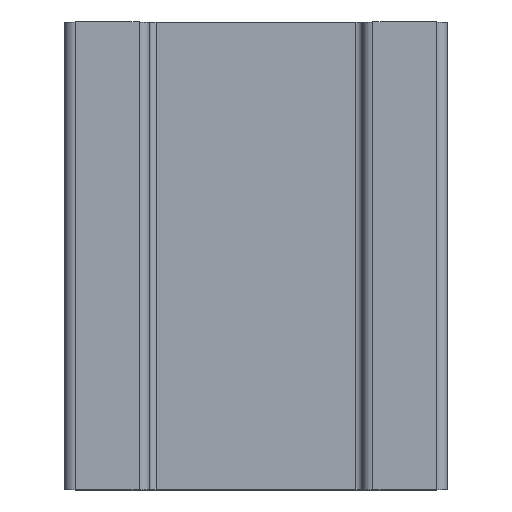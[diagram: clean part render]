
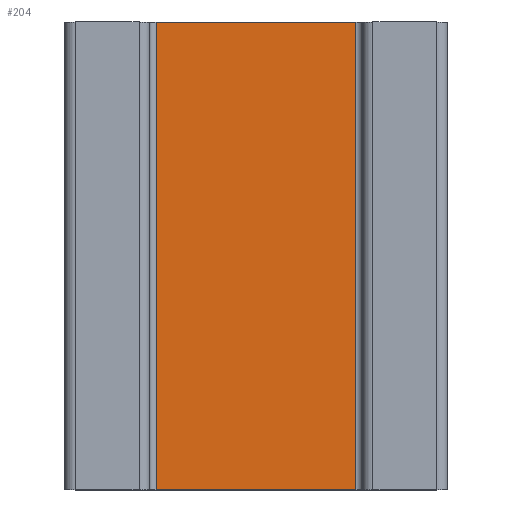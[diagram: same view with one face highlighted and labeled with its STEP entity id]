
A CAD part, top view. The second image highlights one B-rep face of the part: STEP entity #204.
In plain terms, the highlighted planar face has unit normal (0, 0, 1).
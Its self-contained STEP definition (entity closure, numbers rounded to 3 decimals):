
#9 = CARTESIAN_POINT ( 'NONE',  ( 25410.087, 14486.437, 46. ) ) ;
#11 = VECTOR ( 'NONE', #509, 1000. ) ;
#17 = ORIENTED_EDGE ( 'NONE', *, *, #648, .T. ) ;
#39 = LINE ( 'NONE', #131, #107 ) ;
#59 = DIRECTION ( 'NONE',  ( 0., 0., 1. ) ) ;
#60 = DIRECTION ( 'NONE',  ( 0., -1., 0. ) ) ;
#62 = CARTESIAN_POINT ( 'NONE',  ( 25410.087, 14486.437, 46. ) ) ;
#77 = CARTESIAN_POINT ( 'NONE',  ( 25400.687, 14486.437, 46. ) ) ;
#94 = DIRECTION ( 'NONE',  ( 0., 1., 0. ) ) ;
#98 = VERTEX_POINT ( 'NONE', #108 ) ;
#107 = VECTOR ( 'NONE', #165, 1000. ) ;
#108 = CARTESIAN_POINT ( 'NONE',  ( 25400.687, 14464.437, 46. ) ) ;
#131 = CARTESIAN_POINT ( 'NONE',  ( 25405.387, 14486.437, 46. ) ) ;
#146 = ORIENTED_EDGE ( 'NONE', *, *, #371, .F. ) ;
#165 = DIRECTION ( 'NONE',  ( -1., 0., 0. ) ) ;
#199 = EDGE_LOOP ( 'NONE', ( #644, #17, #146, #574 ) ) ;
#204 = ADVANCED_FACE ( 'NONE', ( #296 ), #779, .T. ) ;
#210 = EDGE_CURVE ( 'NONE', #752, #649, #670, .T. ) ;
#235 = EDGE_CURVE ( 'NONE', #649, #778, #39, .T. ) ;
#296 = FACE_OUTER_BOUND ( 'NONE', #199, .T. ) ;
#323 = LINE ( 'NONE', #77, #641 ) ;
#353 = VECTOR ( 'NONE', #94, 1000. ) ;
#371 = EDGE_CURVE ( 'NONE', #752, #98, #640, .T. ) ;
#409 = CARTESIAN_POINT ( 'NONE',  ( 25410.087, 14464.437, 46. ) ) ;
#424 = DIRECTION ( 'NONE',  ( 0., -1., 0. ) ) ;
#464 = AXIS2_PLACEMENT_3D ( 'NONE', #9, #59, #60 ) ;
#477 = CARTESIAN_POINT ( 'NONE',  ( 25400.687, 14486.437, 46. ) ) ;
#502 = CARTESIAN_POINT ( 'NONE',  ( 25405.387, 14464.437, 46. ) ) ;
#509 = DIRECTION ( 'NONE',  ( -1., 0., 0. ) ) ;
#544 = CARTESIAN_POINT ( 'NONE',  ( 25410.087, 14486.437, 46. ) ) ;
#574 = ORIENTED_EDGE ( 'NONE', *, *, #210, .T. ) ;
#640 = LINE ( 'NONE', #502, #11 ) ;
#641 = VECTOR ( 'NONE', #424, 1000. ) ;
#644 = ORIENTED_EDGE ( 'NONE', *, *, #235, .T. ) ;
#648 = EDGE_CURVE ( 'NONE', #778, #98, #323, .T. ) ;
#649 = VERTEX_POINT ( 'NONE', #544 ) ;
#670 = LINE ( 'NONE', #62, #353 ) ;
#752 = VERTEX_POINT ( 'NONE', #409 ) ;
#778 = VERTEX_POINT ( 'NONE', #477 ) ;
#779 = PLANE ( 'NONE',  #464 ) ;
